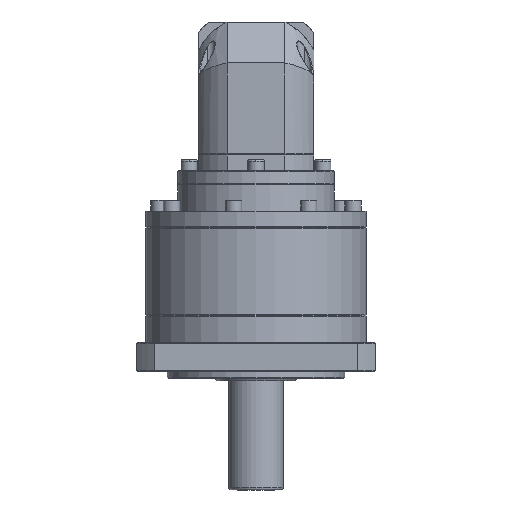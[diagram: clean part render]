
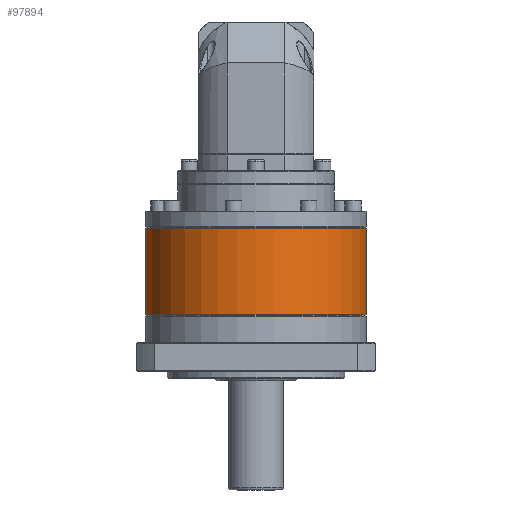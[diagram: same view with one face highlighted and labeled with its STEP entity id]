
A CAD part, front view. The second image highlights one B-rep face of the part: STEP entity #97894.
In plain terms, the highlighted cylindrical face has radius 81 mm (diameter 162 mm), a partial arc.
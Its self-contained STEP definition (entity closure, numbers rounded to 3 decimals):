
#693 = VECTOR ( 'NONE', #46363, 1000. ) ;
#3133 = CARTESIAN_POINT ( 'NONE',  ( -134.067, -3.385, 251.6 ) ) ;
#7896 = CARTESIAN_POINT ( 'NONE',  ( -53.067, -3.385, 315.1 ) ) ;
#11481 = LINE ( 'NONE', #138666, #693 ) ;
#12777 = EDGE_CURVE ( 'NONE', #16271, #105427, #44122, .T. ) ;
#15423 = VECTOR ( 'NONE', #61366, 1000. ) ;
#16271 = VERTEX_POINT ( 'NONE', #3133 ) ;
#17081 = EDGE_CURVE ( 'NONE', #82381, #105427, #11481, .T. ) ;
#18974 = CYLINDRICAL_SURFACE ( 'NONE', #41865, 81. ) ;
#35902 = DIRECTION ( 'NONE',  ( -1., 0., 0. ) ) ;
#36921 = ORIENTED_EDGE ( 'NONE', *, *, #12777, .T. ) ;
#37065 = LINE ( 'NONE', #49760, #15423 ) ;
#41865 = AXIS2_PLACEMENT_3D ( 'NONE', #96415, #50346, #72099 ) ;
#44122 = CIRCLE ( 'NONE', #145250, 81. ) ;
#46363 = DIRECTION ( 'NONE',  ( 0., 0., -1. ) ) ;
#47044 = DIRECTION ( 'NONE',  ( 0., 0., 1. ) ) ;
#49760 = CARTESIAN_POINT ( 'NONE',  ( -134.067, -3.385, 315.6 ) ) ;
#50346 = DIRECTION ( 'NONE',  ( 0., 0., -1. ) ) ;
#52528 = ORIENTED_EDGE ( 'NONE', *, *, #60245, .T. ) ;
#56743 = AXIS2_PLACEMENT_3D ( 'NONE', #7896, #65067, #76746 ) ;
#60054 = EDGE_CURVE ( 'NONE', #82381, #81942, #133408, .T. ) ;
#60245 = EDGE_CURVE ( 'NONE', #81942, #16271, #37065, .T. ) ;
#61366 = DIRECTION ( 'NONE',  ( 0., 0., -1. ) ) ;
#65067 = DIRECTION ( 'NONE',  ( 0., 0., -1. ) ) ;
#72099 = DIRECTION ( 'NONE',  ( -1., 0., 0. ) ) ;
#76746 = DIRECTION ( 'NONE',  ( -1., 0., 0. ) ) ;
#79022 = ORIENTED_EDGE ( 'NONE', *, *, #60054, .T. ) ;
#79249 = ORIENTED_EDGE ( 'NONE', *, *, #17081, .F. ) ;
#81942 = VERTEX_POINT ( 'NONE', #93298 ) ;
#82381 = VERTEX_POINT ( 'NONE', #130801 ) ;
#93298 = CARTESIAN_POINT ( 'NONE',  ( -134.067, -3.385, 315.1 ) ) ;
#96415 = CARTESIAN_POINT ( 'NONE',  ( -53.067, -3.385, 315.6 ) ) ;
#97894 = ADVANCED_FACE ( 'NONE', ( #133344 ), #18974, .T. ) ;
#102139 = EDGE_LOOP ( 'NONE', ( #79249, #79022, #52528, #36921 ) ) ;
#105335 = CARTESIAN_POINT ( 'NONE',  ( -53.067, -3.385, 251.6 ) ) ;
#105427 = VERTEX_POINT ( 'NONE', #120607 ) ;
#120607 = CARTESIAN_POINT ( 'NONE',  ( 27.933, -3.385, 251.6 ) ) ;
#130801 = CARTESIAN_POINT ( 'NONE',  ( 27.933, -3.385, 315.1 ) ) ;
#133344 = FACE_OUTER_BOUND ( 'NONE', #102139, .T. ) ;
#133408 = CIRCLE ( 'NONE', #56743, 81. ) ;
#138666 = CARTESIAN_POINT ( 'NONE',  ( 27.933, -3.385, 315.6 ) ) ;
#145250 = AXIS2_PLACEMENT_3D ( 'NONE', #105335, #47044, #35902 ) ;
